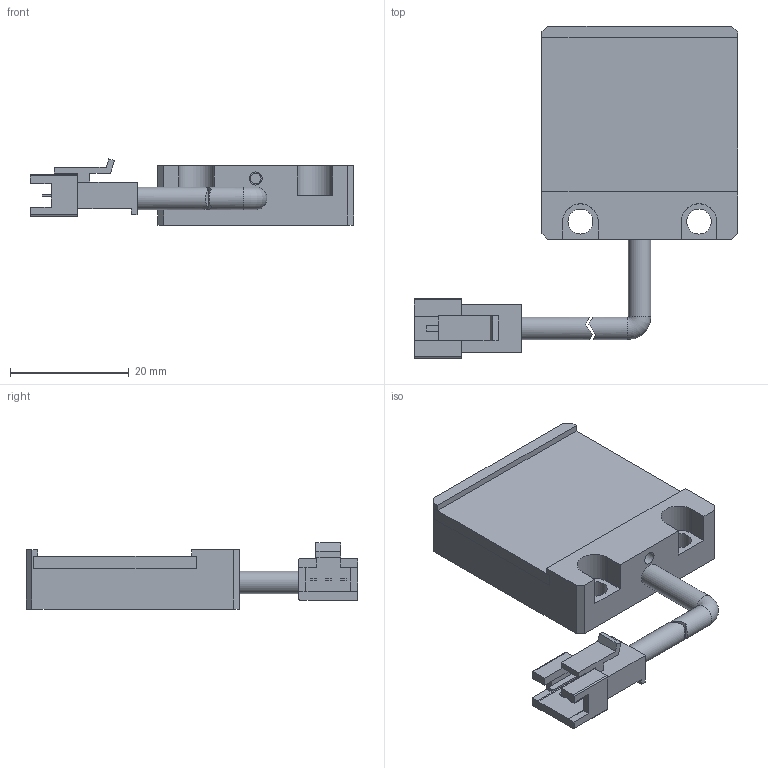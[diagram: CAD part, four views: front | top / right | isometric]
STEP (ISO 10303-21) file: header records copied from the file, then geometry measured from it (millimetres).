
FILE_DESCRIPTION(/* description */ (''),/* implementation_level */ '2;1');
FILE_NAME(/* name */ '',/* time_stamp */ '2024-04-08T09:16:00+08:00',/* author */ (''),/* organization */ (''),/* preprocessor_version */ 'ST-DEVELOPER v20',/* originating_system */ 'Autodesk Translation Framework v12.20.1.177',/* authorisation */ '');
FILE_SCHEMA (('AUTOMOTIVE_DESIGN { 1 0 10303 214 3 1 1 }'));
Length unit declared in the file: millimetre
Products named in the file (2): F3026（10MM厚）; 3拼母头 v2
Assembly tree (1 placements, depth 2):
  F3026（10MM厚）
    3拼母头 v2
Bounding box: 54.5 x 56 x 11.15 mm (x, y, z)
Volume: 7262.8 mm3; surface area: 8156.2 mm2
Topology: 4 solids, 4 shells, 121 faces, 319 edges, 212 vertices
Faces by surface type: plane 98, cylinder 22, torus 1
Full cylindrical faces by diameter (mm): 1.8 x1, 2.2 x1, 3.8 x4, 4.2 x2
Entity records: 3784 total; most frequent: CARTESIAN_POINT 655, ORIENTED_EDGE 638, DIRECTION 626, EDGE_CURVE 319, LINE 260, VECTOR 260, VERTEX_POINT 212, AXIS2_PLACEMENT_3D 183
